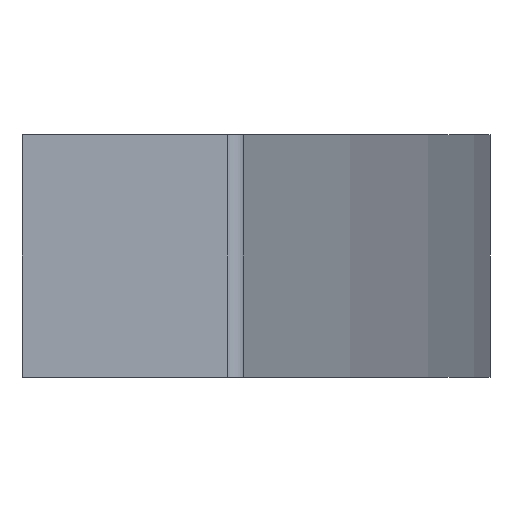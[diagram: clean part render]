
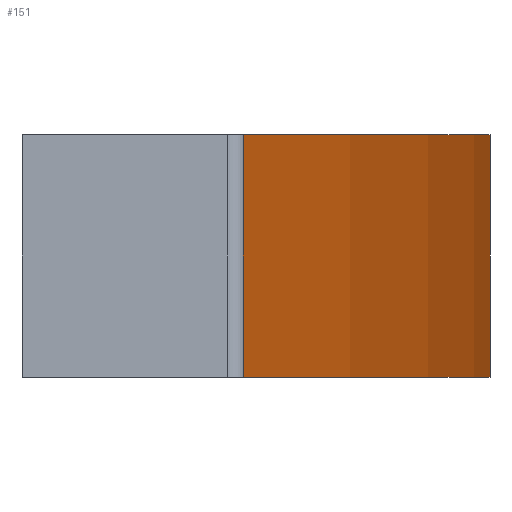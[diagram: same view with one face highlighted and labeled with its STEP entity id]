
A CAD part, left-side view. The second image highlights one B-rep face of the part: STEP entity #151.
In plain terms, the highlighted cylindrical face has radius 186.009 mm (diameter 372.017 mm), a partial arc.
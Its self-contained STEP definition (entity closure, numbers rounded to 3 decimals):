
#149 = EDGE_CURVE( '', #231, #251, #368, .T. );
#151 = ADVANCED_FACE( '', ( #370 ), #371, .T. );
#163 = VERTEX_POINT( '', #385 );
#185 = VERTEX_POINT( '', #408 );
#205 = EDGE_CURVE( '', #185, #163, #428, .T. );
#231 = VERTEX_POINT( '', #459 );
#251 = VERTEX_POINT( '', #479 );
#265 = EDGE_CURVE( '', #231, #185, #494, .T. );
#303 = EDGE_CURVE( '', #251, #163, #539, .T. );
#368 = CIRCLE( '', #608, 186.009 );
#370 = FACE_OUTER_BOUND( '', #610, .T. );
#371 = CYLINDRICAL_SURFACE( '', #611, 186.009 );
#385 = CARTESIAN_POINT( '', ( 135.384, -12.757, -7. ) );
#408 = CARTESIAN_POINT( '', ( -7.384, -12.757, -7. ) );
#428 = CIRCLE( '', #689, 186.009 );
#459 = CARTESIAN_POINT( '', ( -7.384, -12.757, 7. ) );
#479 = CARTESIAN_POINT( '', ( 135.384, -12.757, 7. ) );
#494 = LINE( '', #781, #782 );
#539 = LINE( '', #837, #838 );
#608 = AXIS2_PLACEMENT_3D( '', #887, #888, #889 );
#610 = EDGE_LOOP( '', ( #891, #892, #893, #894 ) );
#611 = AXIS2_PLACEMENT_3D( '', #895, #896, #897 );
#689 = AXIS2_PLACEMENT_3D( '', #938, #939, #940 );
#781 = CARTESIAN_POINT( '', ( -7.384, -12.757, 7. ) );
#782 = VECTOR( '', #1013, 1. );
#837 = CARTESIAN_POINT( '', ( 135.384, -12.757, 7. ) );
#838 = VECTOR( '', #1094, 1. );
#887 = CARTESIAN_POINT( '', ( 64., 159.009, 7. ) );
#888 = DIRECTION( '', ( 0., 0., 1. ) );
#889 = DIRECTION( '', ( -0.384, -0.923, 0. ) );
#891 = ORIENTED_EDGE( '', *, *, #205, .T. );
#892 = ORIENTED_EDGE( '', *, *, #303, .F. );
#893 = ORIENTED_EDGE( '', *, *, #149, .F. );
#894 = ORIENTED_EDGE( '', *, *, #265, .T. );
#895 = CARTESIAN_POINT( '', ( 64., 159.009, 7. ) );
#896 = DIRECTION( '', ( 0., 0., 1. ) );
#897 = DIRECTION( '', ( -0.384, -0.923, 0. ) );
#938 = CARTESIAN_POINT( '', ( 64., 159.009, -7. ) );
#939 = DIRECTION( '', ( 0., 0., 1. ) );
#940 = DIRECTION( '', ( -0.384, -0.923, 0. ) );
#1013 = DIRECTION( '', ( 0., 0., -1. ) );
#1094 = DIRECTION( '', ( 0., 0., -1. ) );
